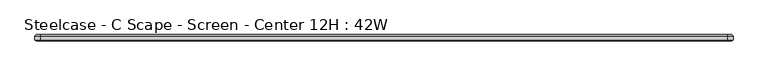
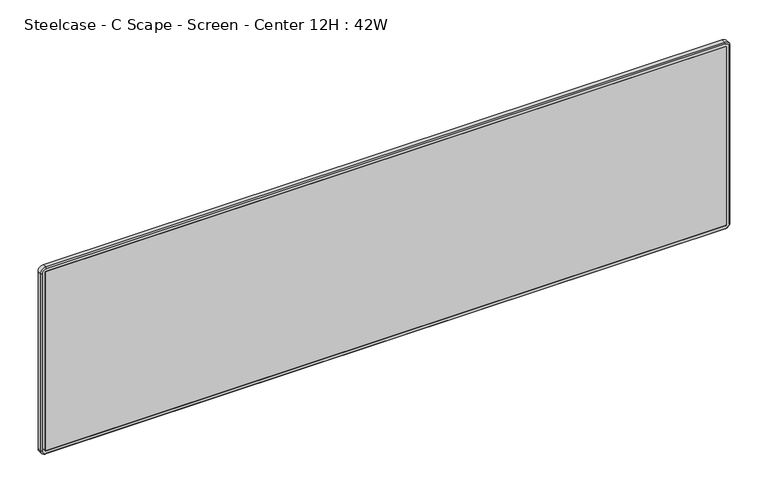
"""IFC4 building model written with IfcOpenShell, lengths in millimetres: furniture geometry, Steelcase - C Scape - Screen - Center 12H : 42W."""

from ifc_helpers import new_model, si_unit, frame, origin, place, context, project, spatial, polyline, circle_curve, outline, extrude, source, transform, mapped, element, save
from ifc_brep_helpers import plane_surface, cylinder_surface, revolved_surface, advanced_brep


def steelcase_c_scape_screen_center_12h_42w_09c77f2a(model_context):
    return source(origin(), model_context, "Body", "SolidModel", [
        advanced_brep(
        [(6.3501994, -7.9375, 975.2694951), (8.21859, -7.9375, 977.1378857), (8.21859, -17.4625, 977.1378857), (6.3501994, -17.4625, 975.2694951), (0.0002237, -9.6896209, 975.2694951), (8.21859, -9.6896209, 983.4878614), (8.21859, -7.9375, 981.7357406), (1.7523445, -7.9375, 975.2694951), (0.0002237, -15.7098203, 975.2694951), (8.21859, -15.7098203, 983.4878614), (1.7529034, -17.4625, 975.2694951), (8.21859, -17.4625, 981.7351817), (6.3501994, -17.4625, 686.9063005), (6.3501994, -7.9375, 686.9063005), (1.7523445, -7.9375, 686.9063005), (0.0002237, -9.6896209, 686.9063005), (0.0002237, -15.7098203, 686.9063005), (1.7529034, -17.4625, 686.9063005), (8.21859, -7.9375, 685.0379099), (8.21859, -17.4625, 685.0379099), (8.21859, -9.6896209, 678.6879341), (8.21859, -7.9375, 680.440055), (8.21859, -15.7098203, 678.6879341), (8.21859, -17.4625, 680.4406139), (1055.406615, -17.4625, 685.0379099), (1055.406615, -7.9375, 685.0379099), (1055.406615, -7.9375, 680.440055), (1055.406615, -9.6896209, 678.6879341), (1055.406615, -15.7098203, 678.6879341), (1055.406615, -17.4625, 680.4406139), (1057.2750056, -7.9375, 686.9063005), (1057.2750056, -17.4625, 686.9063005), (1063.6249814, -9.6896209, 686.9063005), (1061.8728605, -7.9375, 686.9063005), (1063.6249814, -15.7098203, 686.9063005), (1061.8723017, -17.4625, 686.9063005), (1057.2750056, -17.4625, 975.2694951), (1057.2750056, -7.9375, 975.2694951), (1061.8728605, -7.9375, 975.2694951), (1063.6249814, -9.6896209, 975.2694951), (1063.6249814, -15.7098203, 975.2694951), (1061.8723017, -17.4625, 975.2694951), (1055.406615, -7.9375, 977.1378857), (1055.406615, -17.4625, 977.1378857), (1055.406615, -7.9375, 981.7357406), (1055.406615, -9.6896209, 983.4878614), (1055.406615, -15.7098203, 983.4878614), (1055.406615, -17.4625, 981.7351817)],
        [
            (0, 1, circle_curve(frame((8.21859, -7.9375, 975.2694951), z_axis=(0.0, 1.0, 0.0), x_axis=(0.0, 0.0, 1.0)), 1.8683906)),
            (1, 2),
            (2, 3, circle_curve(frame((8.21859, -17.4625, 975.2694951), z_axis=(0.0, -1.0, 0.0), x_axis=(0.0, 0.0, 1.0)), 1.8683906)),
            (3, 0),
            (4, 5, circle_curve(frame((8.21859, -9.6896209, 975.2694951), z_axis=(0.0, 1.0, 0.0), x_axis=(0.0, 0.0, 1.0)), 8.2183664)),
            (5, 6),
            (6, 7, circle_curve(frame((8.21859, -7.9375, 975.2694951), z_axis=(0.0, -1.0, 0.0), x_axis=(0.0, 0.0, 1.0)), 6.4662455)),
            (7, 4),
            (8, 9, circle_curve(frame((8.21859, -15.7098203, 975.2694951), z_axis=(0.0, 1.0, 0.0), x_axis=(0.0, 0.0, 1.0)), 8.2183664)),
            (9, 5),
            (4, 8),
            (10, 11, circle_curve(frame((8.21859, -17.4625, 975.2694951), z_axis=(0.0, 1.0, 0.0), x_axis=(0.0, 0.0, 1.0)), 6.4656866)),
            (11, 9),
            (8, 10),
            (3, 12),
            (12, 13),
            (13, 0),
            (7, 14),
            (14, 15),
            (15, 4),
            (15, 16),
            (16, 8),
            (16, 17),
            (17, 10),
            (18, 13, circle_curve(frame((8.21859, -7.9375, 686.9063005), z_axis=(0.0, 1.0, 0.0), x_axis=(-1.0, 0.0, 0.0)), 1.8683906)),
            (12, 19, circle_curve(frame((8.21859, -17.4625, 686.9063005), z_axis=(0.0, -1.0, 0.0), x_axis=(-1.0, 0.0, 0.0)), 1.8683906)),
            (19, 18),
            (20, 15, circle_curve(frame((8.21859, -9.6896209, 686.9063005), z_axis=(0.0, 1.0, 0.0), x_axis=(-1.0, 0.0, 0.0)), 8.2183664)),
            (14, 21, circle_curve(frame((8.21859, -7.9375, 686.9063005), z_axis=(0.0, -1.0, 0.0), x_axis=(-1.0, 0.0, 0.0)), 6.4662455)),
            (21, 20),
            (22, 16, circle_curve(frame((8.21859, -15.7098203, 686.9063005), z_axis=(0.0, 1.0, 0.0), x_axis=(-1.0, 0.0, 0.0)), 8.2183664)),
            (20, 22),
            (23, 17, circle_curve(frame((8.21859, -17.4625, 686.9063005), z_axis=(0.0, 1.0, 0.0), x_axis=(-1.0, 0.0, 0.0)), 6.4656866)),
            (22, 23),
            (19, 24),
            (24, 25),
            (25, 18),
            (21, 26),
            (26, 27),
            (27, 20),
            (27, 28),
            (28, 22),
            (28, 29),
            (29, 23),
            (30, 25, circle_curve(frame((1055.406615, -7.9375, 686.9063005), z_axis=(0.0, 1.0, 0.0), x_axis=(0.0, 0.0, -1.0)), 1.8683906)),
            (24, 31, circle_curve(frame((1055.406615, -17.4625, 686.9063005), z_axis=(0.0, -1.0, 0.0), x_axis=(0.0, 0.0, -1.0)), 1.8683906)),
            (31, 30),
            (32, 27, circle_curve(frame((1055.406615, -9.6896209, 686.9063005), z_axis=(0.0, 1.0, 0.0), x_axis=(0.0, 0.0, -1.0)), 8.2183664)),
            (26, 33, circle_curve(frame((1055.406615, -7.9375, 686.9063005), z_axis=(0.0, -1.0, 0.0), x_axis=(0.0, 0.0, -1.0)), 6.4662455)),
            (33, 32),
            (34, 28, circle_curve(frame((1055.406615, -15.7098203, 686.9063005), z_axis=(0.0, 1.0, 0.0), x_axis=(0.0, 0.0, -1.0)), 8.2183664)),
            (32, 34),
            (35, 29, circle_curve(frame((1055.406615, -17.4625, 686.9063005), z_axis=(0.0, 1.0, 0.0), x_axis=(0.0, 0.0, -1.0)), 6.4656866)),
            (34, 35),
            (31, 36),
            (36, 37),
            (37, 30),
            (33, 38),
            (38, 39),
            (39, 32),
            (39, 40),
            (40, 34),
            (40, 41),
            (41, 35),
            (42, 37, circle_curve(frame((1055.406615, -7.9375, 975.2694951), z_axis=(0.0, 1.0, 0.0), x_axis=(1.0, 0.0, 0.0)), 1.8683906)),
            (36, 43, circle_curve(frame((1055.406615, -17.4625, 975.2694951), z_axis=(0.0, -1.0, 0.0), x_axis=(1.0, 0.0, 0.0)), 1.8683906)),
            (43, 42),
            (44, 38, circle_curve(frame((1055.406615, -7.9375, 975.2694951), z_axis=(0.0, 1.0, 0.0), x_axis=(1.0, 0.0, 0.0)), 6.4662455)),
            (6, 44),
            (42, 1),
            (45, 39, circle_curve(frame((1055.406615, -9.6896209, 975.2694951), z_axis=(0.0, 1.0, 0.0), x_axis=(1.0, 0.0, 0.0)), 8.2183664)),
            (44, 45),
            (46, 40, circle_curve(frame((1055.406615, -15.7098203, 975.2694951), z_axis=(0.0, 1.0, 0.0), x_axis=(1.0, 0.0, 0.0)), 8.2183664)),
            (45, 46),
            (47, 41, circle_curve(frame((1055.406615, -17.4625, 975.2694951), z_axis=(0.0, 1.0, 0.0), x_axis=(1.0, 0.0, 0.0)), 6.4656866)),
            (46, 47),
            (47, 11),
            (2, 43),
            (5, 45),
            (9, 46),
        ],
        [
            revolved_surface(polyline([(8.21859, -17.4625, 977.1378857), (8.21859, -7.9375, 977.1378857)]), (8.21859, -7.9375, 975.2694951), (0.0, -1.0, 0.0)),
            revolved_surface(polyline([(8.21859, -7.9375, 981.7357406), (8.21859, -9.6896209, 983.4878614)]), (8.21859, -7.9375, 975.2694951), (0.0, -1.0, 0.0)),
            cylinder_surface(frame((8.21859, -7.9375, 975.2694951), z_axis=(0.0, -1.0, 0.0), x_axis=(0.0, 0.0, 1.0)), 8.2183664),
            revolved_surface(polyline([(8.21859, -15.7098203, 983.4878614), (8.21859, -17.4625, 981.7351817)]), (8.21859, -7.9375, 975.2694951), (0.0, -1.0, 0.0)),
            plane_surface(frame((6.3501994, -17.4625, 975.2694951), z_axis=(1.0, 0.0, 0.0), x_axis=(0.0, 0.0, -1.0))),
            plane_surface(frame((1.7523445, -7.9375, 975.2694951), z_axis=(-0.7071067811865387, 0.7071067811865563, 0.0), x_axis=(0.0, 0.0, -1.0))),
            plane_surface(frame((0.0002237, -9.6896209, 975.2694951), z_axis=(-1.0, 0.0, 0.0), x_axis=(0.0, 0.0, -1.0))),
            plane_surface(frame((0.0002237, -15.7098203, 975.2694951), z_axis=(-0.7071067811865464, -0.7071067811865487, 0.0), x_axis=(0.0, 0.0, -1.0))),
            revolved_surface(polyline([(6.350199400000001, -17.4625, 686.9063005), (6.350199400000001, -7.9375, 686.9063005)]), (8.21859, -7.9375, 686.9063005), (0.0, -1.0, 0.0)),
            revolved_surface(polyline([(1.7523445, -7.9375, 686.9063005), (0.0002237, -9.6896209, 686.9063005)]), (8.21859, -7.9375, 686.9063005), (0.0, -1.0, 0.0)),
            cylinder_surface(frame((8.21859, -7.9375, 686.9063005), z_axis=(0.0, -1.0, 0.0), x_axis=(-1.0, 0.0, 0.0)), 8.2183664),
            revolved_surface(polyline([(0.0002237, -15.7098203, 686.9063005), (1.7529034, -17.4625, 686.9063005)]), (8.21859, -7.9375, 686.9063005), (0.0, -1.0, 0.0)),
            plane_surface(frame((8.21859, -17.4625, 685.0379099), z_axis=(0.0, 0.0, 1.0), x_axis=(1.0, 0.0, 0.0))),
            plane_surface(frame((8.21859, -7.9375, 680.440055), z_axis=(0.0, 0.7071067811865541, -0.7071067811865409), x_axis=(1.0, 0.0, 0.0))),
            plane_surface(frame((8.21859, -9.6896209, 678.6879341), z_axis=(0.0, 0.0, -1.0), x_axis=(1.0, 0.0, 0.0))),
            plane_surface(frame((8.21859, -15.7098203, 678.6879341), z_axis=(0.0, -0.7071067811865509, -0.7071067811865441), x_axis=(1.0, 0.0, 0.0))),
            revolved_surface(polyline([(1055.406615, -17.4625, 685.0379099), (1055.406615, -7.9375, 685.0379099)]), (1055.406615, -7.9375, 686.9063005), (0.0, -1.0, 0.0)),
            revolved_surface(polyline([(1055.406615, -7.9375, 680.440055), (1055.406615, -9.6896209, 678.6879341)]), (1055.406615, -7.9375, 686.9063005), (0.0, -1.0, 0.0)),
            cylinder_surface(frame((1055.406615, -7.9375, 686.9063005), z_axis=(0.0, -1.0, 0.0), x_axis=(0.0, 0.0, -1.0)), 8.2183664),
            revolved_surface(polyline([(1055.406615, -15.7098203, 678.6879341), (1055.406615, -17.4625, 680.4406139)]), (1055.406615, -7.9375, 686.9063005), (0.0, -1.0, 0.0)),
            plane_surface(frame((1057.2750056, -17.4625, 686.9063005), z_axis=(-1.0, 0.0, 0.0), x_axis=(0.0, 0.0, 1.0))),
            plane_surface(frame((1061.8728605, -7.9375, 686.9063005), z_axis=(0.7071067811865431, 0.7071067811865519, 0.0), x_axis=(0.0, 0.0, 1.0))),
            plane_surface(frame((1063.6249814, -9.6896209, 686.9063005), z_axis=(1.0, 0.0, 0.0), x_axis=(0.0, 0.0, 1.0))),
            plane_surface(frame((1063.6249814, -15.7098203, 686.9063005), z_axis=(0.7071067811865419, -0.7071067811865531, 0.0), x_axis=(0.0, 0.0, 1.0))),
            revolved_surface(polyline([(1057.2750056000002, -17.4625, 975.2694951), (1057.2750056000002, -7.9375, 975.2694951)]), (1055.406615, -7.9375, 975.2694951), (0.0, -1.0, 0.0)),
            plane_surface(frame((1055.406615, -7.9375, 975.2694951), z_axis=(0.0, 1.0, 0.0), x_axis=(1.0, 0.0, 0.0))),
            revolved_surface(polyline([(1061.8728605, -7.9375, 975.2694951), (1063.6249814, -9.6896209, 975.2694951)]), (1055.406615, -7.9375, 975.2694951), (0.0, -1.0, 0.0)),
            cylinder_surface(frame((1055.406615, -7.9375, 975.2694951), z_axis=(0.0, -1.0, 0.0), x_axis=(1.0, 0.0, 0.0)), 8.2183664),
            revolved_surface(polyline([(1063.6249814, -15.7098203, 975.2694951), (1061.8723017, -17.4625, 975.2694951)]), (1055.406615, -7.9375, 975.2694951), (0.0, -1.0, 0.0)),
            plane_surface(frame((1055.406615, -17.4625, 975.2694951), z_axis=(0.0, -1.0, 0.0), x_axis=(1.0, 0.0, 0.0))),
            plane_surface(frame((1055.406615, -17.4625, 977.1378857), z_axis=(0.0, 0.0, -1.0), x_axis=(-1.0, 0.0, 0.0))),
            plane_surface(frame((1055.406615, -7.9375, 981.7357406), z_axis=(0.0, 0.7071067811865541, 0.7071067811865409), x_axis=(-1.0, 0.0, 0.0))),
            plane_surface(frame((1055.406615, -9.6896209, 983.4878614), z_axis=(0.0, 0.0, 1.0), x_axis=(-1.0, 0.0, 0.0))),
            plane_surface(frame((1055.406615, -15.7098203, 983.4878614), z_axis=(0.0, -0.7071067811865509, 0.7071067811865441), x_axis=(-1.0, 0.0, 0.0))),
        ],
        [
            (0, [[1, 2, 3, 4]]),
            (1, [[5, 6, 7, 8]]),
            (2, [[9, 10, -5, 11]]),
            (3, [[12, 13, -9, 14]]),
            (4, [[-4, 15, 16, 17]]),
            (5, [[-8, 18, 19, 20]]),
            (6, [[-11, -20, 21, 22]]),
            (7, [[-14, -22, 23, 24]]),
            (8, [[25, -16, 26, 27]]),
            (9, [[28, -19, 29, 30]]),
            (10, [[31, -21, -28, 32]]),
            (11, [[33, -23, -31, 34]]),
            (12, [[-27, 35, 36, 37]]),
            (13, [[-30, 38, 39, 40]]),
            (14, [[-32, -40, 41, 42]]),
            (15, [[-34, -42, 43, 44]]),
            (16, [[45, -36, 46, 47]]),
            (17, [[48, -39, 49, 50]]),
            (18, [[51, -41, -48, 52]]),
            (19, [[53, -43, -51, 54]]),
            (20, [[-47, 55, 56, 57]]),
            (21, [[-50, 58, 59, 60]]),
            (22, [[-52, -60, 61, 62]]),
            (23, [[-54, -62, 63, 64]]),
            (24, [[65, -56, 66, 67]]),
            (25, [[68, -58, -49, -38, -29, -18, -7, 69], [-37, -45, -57, -65, 70, -1, -17, -25]]),
            (26, [[71, -59, -68, 72]]),
            (27, [[73, -61, -71, 74]]),
            (28, [[75, -63, -73, 76]]),
            (29, [[-44, -53, -64, -75, 77, -12, -24, -33], [-66, -55, -46, -35, -26, -15, -3, 78]]),
            (30, [[-67, -78, -2, -70]]),
            (31, [[-72, -69, -6, 79]]),
            (32, [[-74, -79, -10, 80]]),
            (33, [[-76, -80, -13, -77]]),
        ],
    ),
        extrude(outline(polyline([(1057.2750056, -7.9375), (1057.2750056, -17.4625), (6.3501994, -17.4625), (6.3501994, -7.9375), (1057.2750056, -7.9375)])), frame((0.0, 0.0, 685.0379099), z_axis=(0.0, 0.0, 1.0), x_axis=(1.0, 0.0, 0.0)), (0.0, 0.0, 1.0), 292.0999758),
    ])


if __name__ == "__main__":
    model = new_model("IFC4")
    model_context = context("Model", 3, world=origin())
    ifc_project = project(units=[si_unit("LENGTHUNIT", "METRE", prefix="MILLI")], contexts=[model_context])
    site = spatial("IfcSite", under=ifc_project)
    building = spatial("IfcBuilding", under=site)
    placement = place(None, origin())
    steelcase_c_scape_screen_center_12h_42w_shape = steelcase_c_scape_screen_center_12h_42w_09c77f2a(model_context)
    element("IfcFurniture", 1, ObjectType="Steelcase - C Scape - Screen - Center 12H : 42W", at=placement, inside=building, context=model_context, shape_type="MappedRepresentation", body=[
        mapped(steelcase_c_scape_screen_center_12h_42w_shape, transform((0.0, 0.0, 0.0), x_axis=(1.0, 0.0, 0.0), y_axis=(0.0, 1.0, 0.0), z_axis=(0.0, 0.0, 1.0))),
    ])
    save(model, "model.ifc")
